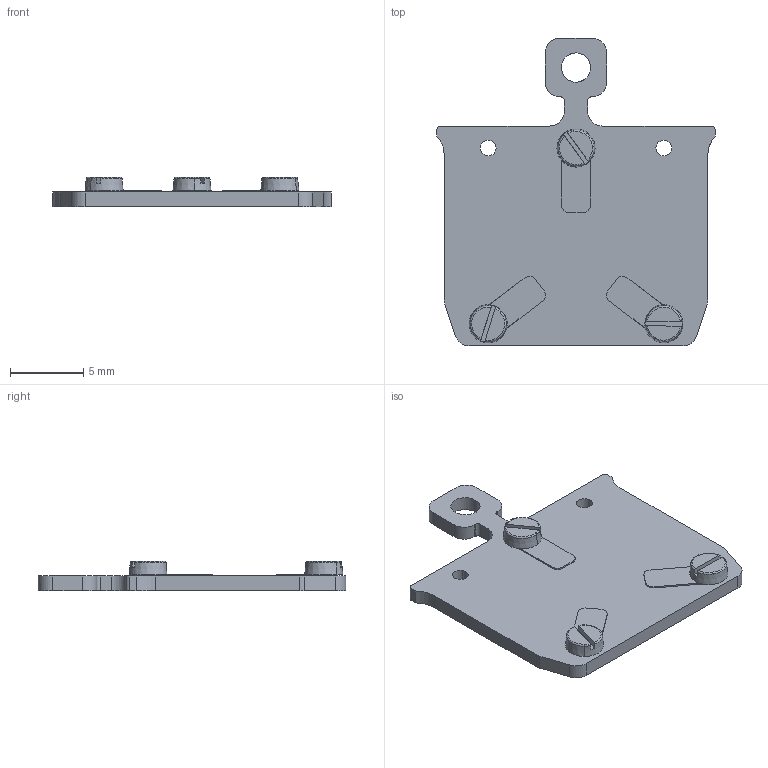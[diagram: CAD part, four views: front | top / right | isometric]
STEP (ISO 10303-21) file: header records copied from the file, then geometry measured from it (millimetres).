
FILE_DESCRIPTION(('CATIA V5 STEP Exchange'),'2;1');
FILE_NAME('W:\KONSTRUKTION\PRODUCTS\SH\SHOM\SHOM3T\SHOM3T_Rev_E_20190304.stp','2019-03-05T10:00:09+00:00',('none'),('none'),'CATIA Version 5 Release 20 SP 7 (IN-10)','CATIA V5 STEP AP214','none');
FILE_SCHEMA(('AUTOMOTIVE_DESIGN { 1 0 10303 214 1 1 1 1 }'));
Length unit declared in the file: millimetre
Products named in the file (1): SHOM3T_AllCATPart
Bounding box: 19 x 21 x 2 mm (x, y, z)
Volume: 297.8 mm3; surface area: 700 mm2
Topology: 1 solids, 4 shells, 129 faces, 353 edges, 235 vertices
Faces by surface type: plane 54, cylinder 47, torus 22, cone 6
Entity records: 4184 total; most frequent: CARTESIAN_POINT 1009, ORIENTED_EDGE 706, DIRECTION 538, EDGE_CURVE 353, AXIS2_PLACEMENT_3D 275, VERTEX_POINT 235, CIRCLE 160, VECTOR 150
